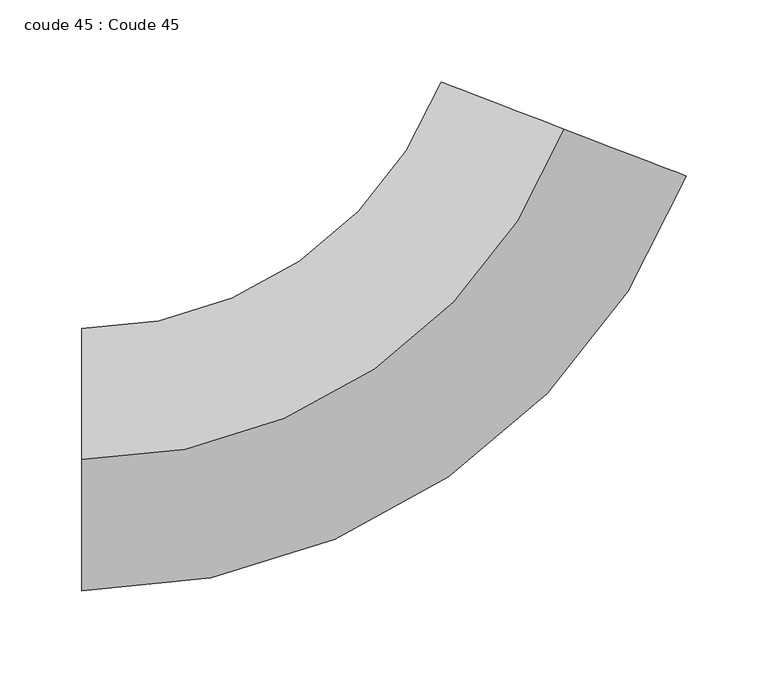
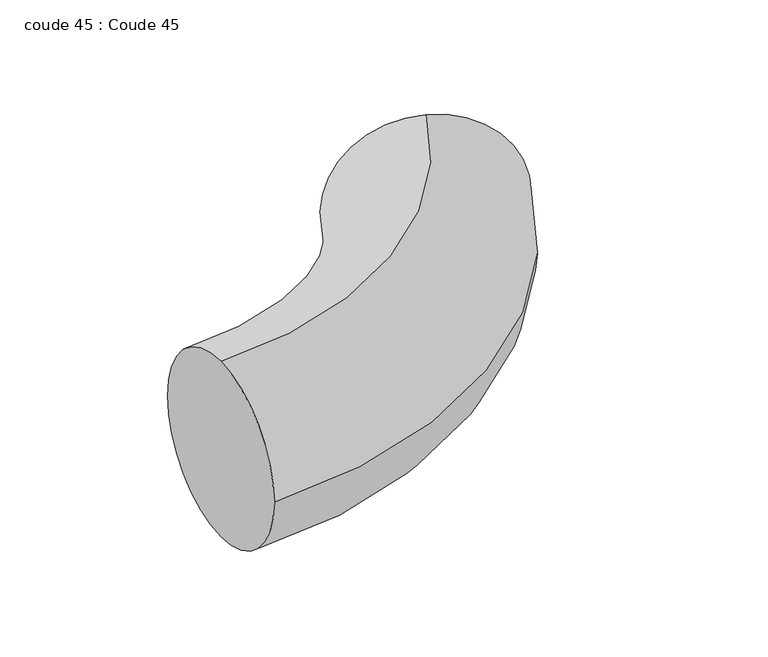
"""IFC4 building model written with IfcOpenShell, lengths in millimetres: duct fitting geometry, coude 45 : Coude 45."""

from ifc_helpers import new_model, si_unit, point, frame, origin, place, context, project, spatial, circle_curve, ellipse_curve, trimmed, source, transform, mapped, element, save
from ifc_brep_helpers import plane_surface, revolved_surface, advanced_brep


def coude_45_coude_45_9e966648(model_context):
    return source(origin(), model_context, "Body", "AdvancedBrep", [
        advanced_brep(
        [(-343.6404793, 185.4684707, 80.0), (-343.6404793, 265.4684707, 0.0), (-343.6404793, 185.4684707, -80.0), (-343.6404793, 105.4684707, 0.0), (-50.0, 387.2819808, 80.0), (24.6864341, 358.6125448, 0.0), (-50.0, 387.2819808, -80.0), (-124.6864341, 415.9514167, 0.0)],
        [
            (0, 1, circle_curve(frame((-343.6404793, 185.4684707, 0.0), z_axis=(-1.0, 0.0, 0.0), x_axis=(0.0, 1.0, 0.0)), 80.0)),
            (1, 2, circle_curve(frame((-343.6404793, 185.4684707, 0.0), z_axis=(-1.0, 0.0, 0.0), x_axis=(0.0, 1.0, 0.0)), 80.0)),
            (2, 3, circle_curve(frame((-343.6404793, 185.4684707, 0.0), z_axis=(-1.0, 0.0, 0.0), x_axis=(0.0, 1.0, 0.0)), 80.0)),
            (3, 0, circle_curve(frame((-343.6404793, 185.4684707, 0.0), z_axis=(-1.0, 0.0, 0.0), x_axis=(0.0, 1.0, 0.0)), 80.0)),
            (4, 5, circle_curve(frame((-50.0, 387.2819808, 0.0), z_axis=(0.35836794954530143, 0.9335804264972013, 0.0), x_axis=(-0.9335804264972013, 0.35836794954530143, 0.0)), 80.0)),
            (5, 6, circle_curve(frame((-50.0, 387.2819808, 0.0), z_axis=(0.35836794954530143, 0.9335804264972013, 0.0), x_axis=(-0.9335804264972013, 0.35836794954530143, 0.0)), 80.0)),
            (6, 7, circle_curve(frame((-50.0, 387.2819808, 0.0), z_axis=(0.35836794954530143, 0.9335804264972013, 0.0), x_axis=(-0.9335804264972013, 0.35836794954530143, 0.0)), 80.0)),
            (7, 4, circle_curve(frame((-50.0, 387.2819808, 0.0), z_axis=(0.35836794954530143, 0.9335804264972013, 0.0), x_axis=(-0.9335804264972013, 0.35836794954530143, 0.0)), 80.0)),
            (7, 1, circle_curve(frame((-343.6404793, 500.0, 0.0), z_axis=(0.0, 0.0, -1.0), x_axis=(0.0, -1.0, 0.0)), 234.5315293)),
            (0, 4, circle_curve(frame((-343.6404793, 500.0, 80.0), z_axis=(0.0, 0.0, 1.0), x_axis=(0.0, -1.0, 0.0)), 314.5315293)),
            (6, 2, circle_curve(frame((-343.6404793, 500.0, -80.0), z_axis=(0.0, 0.0, -1.0), x_axis=(0.0, -1.0, 0.0)), 314.5315293)),
            (5, 3, circle_curve(frame((-343.6404793, 500.0, 0.0), z_axis=(0.0, 0.0, -1.0), x_axis=(0.0, -1.0, 0.0)), 394.5315293)),
        ],
        [
            plane_surface(frame((-343.6404793, 185.4684707, 0.0), z_axis=(-1.0, 0.0, 0.0), x_axis=(0.0, 0.0, 1.0))),
            plane_surface(frame((-50.0, 387.2819808, 0.0), z_axis=(0.35836794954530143, 0.9335804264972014, 0.0), x_axis=(0.0, 0.0, 1.0))),
            revolved_surface(trimmed(ellipse_curve(frame((-343.6404793, 185.4684707, 0.0), z_axis=(-1.0, 0.0, 0.0), x_axis=(0.0, 1.0, 0.0)), 80.0, 80.0), [point((-343.6404793, 185.4684707, 80.0))], [point((-343.6404793, 265.4684707, 0.0))], True, "CARTESIAN"), (-343.6404793, 500.0, 0.0), (0.0, 0.0, 1.0)),
            revolved_surface(trimmed(ellipse_curve(frame((-343.6404793, 185.4684707, 0.0), z_axis=(-1.0, 0.0, 0.0), x_axis=(0.0, 1.0, 0.0)), 80.0, 80.0), [point((-343.6404793, 265.4684707, 0.0))], [point((-343.6404793, 185.4684707, -80.0))], True, "CARTESIAN"), (-343.6404793, 500.0, 0.0), (0.0, 0.0, 1.0)),
            revolved_surface(trimmed(ellipse_curve(frame((-343.6404793, 185.4684707, 0.0), z_axis=(-1.0, 0.0, 0.0), x_axis=(0.0, 1.0, 0.0)), 80.0, 80.0), [point((-343.6404793, 185.4684707, -80.0))], [point((-343.6404793, 105.4684707, 0.0))], True, "CARTESIAN"), (-343.6404793, 500.0, 0.0), (0.0, 0.0, 1.0)),
            revolved_surface(trimmed(ellipse_curve(frame((-343.6404793, 185.4684707, 0.0), z_axis=(-1.0, 0.0, 0.0), x_axis=(0.0, 1.0, 0.0)), 80.0, 80.0), [point((-343.6404793, 105.4684707, 0.0))], [point((-343.6404793, 185.4684707, 80.0))], True, "CARTESIAN"), (-343.6404793, 500.0, 0.0), (0.0, 0.0, 1.0)),
        ],
        [
            (0, [[1, 2, 3, 4]]),
            (1, [[5, 6, 7, 8]]),
            (2, [[9, -1, 10, -8]]),
            (3, [[11, -2, -9, -7]]),
            (4, [[12, -3, -11, -6]]),
            (5, [[-10, -4, -12, -5]]),
        ],
    ),
    ])


if __name__ == "__main__":
    model = new_model("IFC4")
    model_context = context("Model", 3, world=origin())
    ifc_project = project(units=[si_unit("LENGTHUNIT", "METRE", prefix="MILLI")], contexts=[model_context])
    site = spatial("IfcSite", under=ifc_project)
    building = spatial("IfcBuilding", under=site)
    placement = place(None, origin())
    coude_45_coude_45_shape = coude_45_coude_45_9e966648(model_context)
    element("IfcDuctFitting", 1, ObjectType="coude 45 : Coude 45", at=placement, inside=building, context=model_context, shape_type="MappedRepresentation", body=[
        mapped(coude_45_coude_45_shape, transform((0.0, 0.0, 0.0), x_axis=(1.0, 0.0, 0.0), y_axis=(0.0, 1.0, 0.0), z_axis=(0.0, 0.0, 1.0))),
    ])
    save(model, "model.ifc")
